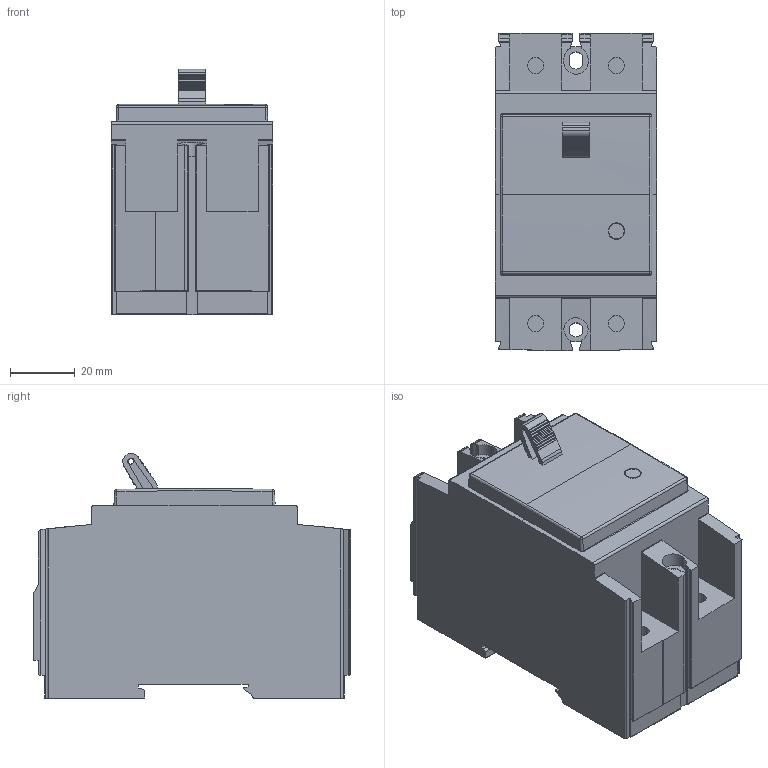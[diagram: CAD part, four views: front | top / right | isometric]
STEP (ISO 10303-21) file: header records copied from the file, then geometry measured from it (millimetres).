
FILE_DESCRIPTION (( 'STEP AP203' ), '1' );
FILE_NAME ('BE Type 2P (50A 捞窍).STEP', '2018-01-04T01:20:47', ( '' ), ( '' ), 'SwSTEP 2.0', 'SolidWorks 2015', '' );
FILE_SCHEMA (( 'CONFIG_CONTROL_DESIGN' ));
Length unit declared in the file: millimetre
Products named in the file (1): BE Type 2P (50A 捞窍)
Bounding box: 50 x 98.44 x 76.11 mm (x, y, z)
Volume: 255951.2 mm3; surface area: 35451.8 mm2
Topology: 1 solids, 1 shells, 316 faces, 907 edges, 600 vertices
Faces by surface type: plane 187, cylinder 112, bspline 9, sphere 4, torus 4
Entity records: 10860 total; most frequent: CARTESIAN_POINT 2465, ORIENTED_EDGE 1814, DIRECTION 1672, EDGE_CURVE 907, VECTOR 608, LINE 608, VERTEX_POINT 600, AXIS2_PLACEMENT_3D 532
